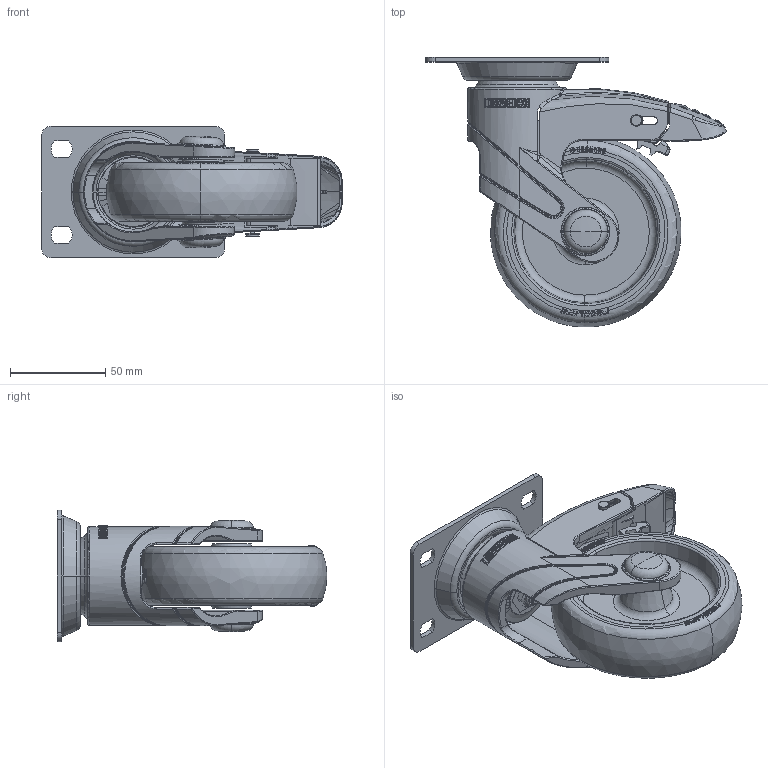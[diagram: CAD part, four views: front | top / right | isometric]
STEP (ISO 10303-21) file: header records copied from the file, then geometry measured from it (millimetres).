
FILE_DESCRIPTION((''),'2;1');
FILE_NAME('PRT0050','2025-08-18T13:37:53',('Administrator'),(''),'CREO PARAMETRIC BY PTC INC, 2022124','CREO PARAMETRIC BY PTC INC, 2022124','');
FILE_SCHEMA(('AUTOMOTIVE_DESIGN { 1 0 10303 214 1 1 1 1 }'));
Products named in the file (1): PRT0050
Bounding box: 157.72 x 141.49 x 69 mm (x, y, z)
Surface area: 75633.7 mm2 (no closed solid volume)
Topology: 0 solids, 70 shells, 586 faces, 2862 edges, 2276 vertices
Faces by surface type: bspline 205, cylinder 128, plane 111, torus 106, cone 30, sphere 4, extrusion 2
Entity records: 48966 total; most frequent: CARTESIAN_POINT 25224, ORIENTED_EDGE 3873, DIRECTION 3278, EDGE_CURVE 2850, VERTEX_POINT 2276, AXIS2_PLACEMENT_3D 1273, B_SPLINE_CURVE_WITH_KNOTS 1241, CIRCLE 884
